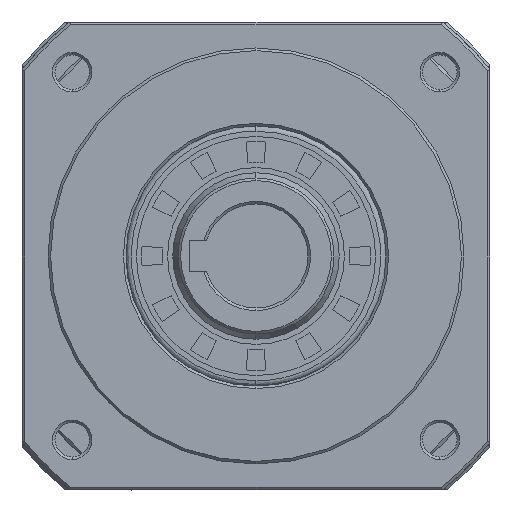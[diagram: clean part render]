
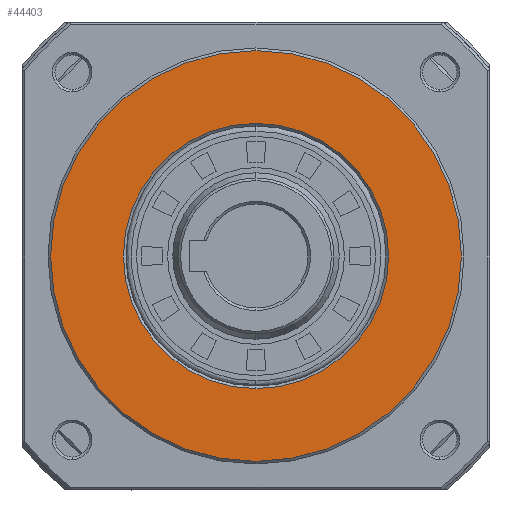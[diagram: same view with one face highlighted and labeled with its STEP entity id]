
A CAD part, left-side view. The second image highlights one B-rep face of the part: STEP entity #44403.
In plain terms, the highlighted planar face has unit normal (-1, 0, 0).
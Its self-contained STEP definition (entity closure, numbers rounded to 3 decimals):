
#478 = FACE_OUTER_BOUND ( 'NONE', #82990, .T. ) ;
#555 = CIRCLE ( 'NONE', #51587, 39.5 ) ;
#1456 = EDGE_LOOP ( 'NONE', ( #58502, #59039 ) ) ;
#4403 = DIRECTION ( 'NONE',  ( 1., 0., 0. ) ) ;
#7203 = VERTEX_POINT ( 'NONE', #25399 ) ;
#10230 = EDGE_CURVE ( 'NONE', #7203, #31835, #82589, .T. ) ;
#10488 = EDGE_CURVE ( 'NONE', #31835, #7203, #21338, .T. ) ;
#11539 = CARTESIAN_POINT ( 'NONE',  ( 0., 0., 0. ) ) ;
#12171 = DIRECTION ( 'NONE',  ( 1., 0., 0. ) ) ;
#19397 = CARTESIAN_POINT ( 'NONE',  ( 0., 0., 0. ) ) ;
#21338 = CIRCLE ( 'NONE', #52483, 25.5 ) ;
#23821 = CARTESIAN_POINT ( 'NONE',  ( 0., 0., 25.5 ) ) ;
#25399 = CARTESIAN_POINT ( 'NONE',  ( 0., 0., -25.5 ) ) ;
#26199 = DIRECTION ( 'NONE',  ( 0., 0., -1. ) ) ;
#28756 = AXIS2_PLACEMENT_3D ( 'NONE', #32948, #82742, #83358 ) ;
#29275 = VERTEX_POINT ( 'NONE', #40079 ) ;
#31835 = VERTEX_POINT ( 'NONE', #23821 ) ;
#32375 = PLANE ( 'NONE',  #86532 ) ;
#32779 = ORIENTED_EDGE ( 'NONE', *, *, #54622, .F. ) ;
#32948 = CARTESIAN_POINT ( 'NONE',  ( 0., 0., 0. ) ) ;
#35889 = AXIS2_PLACEMENT_3D ( 'NONE', #19397, #48242, #48841 ) ;
#40079 = CARTESIAN_POINT ( 'NONE',  ( 0., 0., 39.5 ) ) ;
#40691 = DIRECTION ( 'NONE',  ( 0., 0., -1. ) ) ;
#42822 = CIRCLE ( 'NONE', #35889, 39.5 ) ;
#44296 = DIRECTION ( 'NONE',  ( 0., 0., 1. ) ) ;
#44403 = ADVANCED_FACE ( 'NONE', ( #88340, #478 ), #32375, .F. ) ;
#46293 = CARTESIAN_POINT ( 'NONE',  ( 0., -39.974, 39.974 ) ) ;
#48242 = DIRECTION ( 'NONE',  ( 1., 0., 0. ) ) ;
#48841 = DIRECTION ( 'NONE',  ( 0., 0., -1. ) ) ;
#50660 = CARTESIAN_POINT ( 'NONE',  ( 0., 0., -39.5 ) ) ;
#51587 = AXIS2_PLACEMENT_3D ( 'NONE', #11539, #4403, #40691 ) ;
#51736 = CARTESIAN_POINT ( 'NONE',  ( 0., 0., 0. ) ) ;
#52483 = AXIS2_PLACEMENT_3D ( 'NONE', #51736, #58650, #44296 ) ;
#54622 = EDGE_CURVE ( 'NONE', #82250, #29275, #555, .T. ) ;
#58502 = ORIENTED_EDGE ( 'NONE', *, *, #10488, .T. ) ;
#58650 = DIRECTION ( 'NONE',  ( 1., 0., 0. ) ) ;
#59039 = ORIENTED_EDGE ( 'NONE', *, *, #10230, .T. ) ;
#75167 = ORIENTED_EDGE ( 'NONE', *, *, #83403, .F. ) ;
#82250 = VERTEX_POINT ( 'NONE', #50660 ) ;
#82589 = CIRCLE ( 'NONE', #28756, 25.5 ) ;
#82742 = DIRECTION ( 'NONE',  ( 1., 0., 0. ) ) ;
#82990 = EDGE_LOOP ( 'NONE', ( #32779, #75167 ) ) ;
#83358 = DIRECTION ( 'NONE',  ( 0., 0., 1. ) ) ;
#83403 = EDGE_CURVE ( 'NONE', #29275, #82250, #42822, .T. ) ;
#86532 = AXIS2_PLACEMENT_3D ( 'NONE', #46293, #12171, #26199 ) ;
#88340 = FACE_BOUND ( 'NONE', #1456, .T. ) ;
